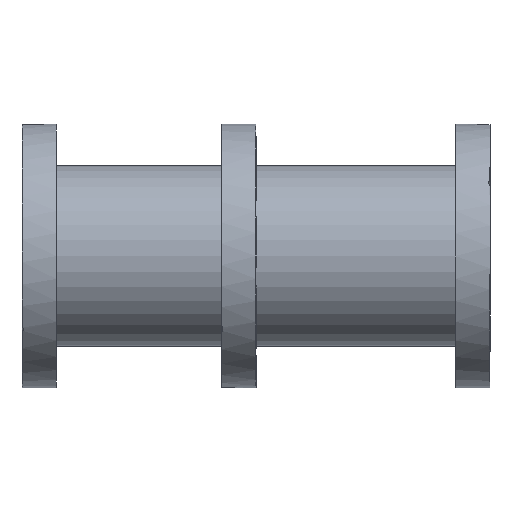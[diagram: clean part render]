
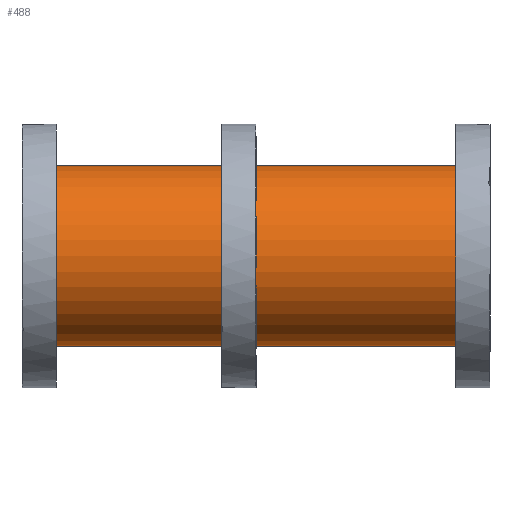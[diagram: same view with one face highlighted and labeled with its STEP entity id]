
A CAD part, front view. The second image highlights one B-rep face of the part: STEP entity #488.
In plain terms, the highlighted cylindrical face has radius 52 mm (diameter 104 mm), a full revolution.
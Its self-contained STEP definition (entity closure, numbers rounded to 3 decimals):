
#488 = ADVANCED_FACE( '', ( #744, #745 ), #746, .T. );
#744 = FACE_OUTER_BOUND( '', #968, .T. );
#745 = FACE_OUTER_BOUND( '', #969, .T. );
#746 = CYLINDRICAL_SURFACE( '', #970, 52. );
#968 = EDGE_LOOP( '', ( #1254 ) );
#969 = EDGE_LOOP( '', ( #1255 ) );
#970 = AXIS2_PLACEMENT_3D( '', #1256, #1257, #1258 );
#1254 = ORIENTED_EDGE( '', *, *, #1659, .T. );
#1255 = ORIENTED_EDGE( '', *, *, #1660, .F. );
#1256 = CARTESIAN_POINT( '', ( 125.5, 0., 0. ) );
#1257 = DIRECTION( '', ( 1., 0., 0. ) );
#1258 = DIRECTION( '', ( 0., 0., 1. ) );
#1659 = EDGE_CURVE( '', #1857, #1857, #1858, .T. );
#1660 = EDGE_CURVE( '', #1859, #1859, #1860, .T. );
#1857 = VERTEX_POINT( '', #1981 );
#1858 = CIRCLE( '', #1982, 52. );
#1859 = VERTEX_POINT( '', #1983 );
#1860 = CIRCLE( '', #1984, 52. );
#1981 = CARTESIAN_POINT( '', ( 125.5, 52., 0. ) );
#1982 = AXIS2_PLACEMENT_3D( '', #2187, #2188, #2189 );
#1983 = CARTESIAN_POINT( '', ( -125.5, 52., 0. ) );
#1984 = AXIS2_PLACEMENT_3D( '', #2190, #2191, #2192 );
#2187 = CARTESIAN_POINT( '', ( 125.5, 0., 0. ) );
#2188 = DIRECTION( '', ( -1., 0., 0. ) );
#2189 = DIRECTION( '', ( 0., 1., 0. ) );
#2190 = CARTESIAN_POINT( '', ( -125.5, 0., 0. ) );
#2191 = DIRECTION( '', ( -1., 0., 0. ) );
#2192 = DIRECTION( '', ( 0., 1., 0. ) );
